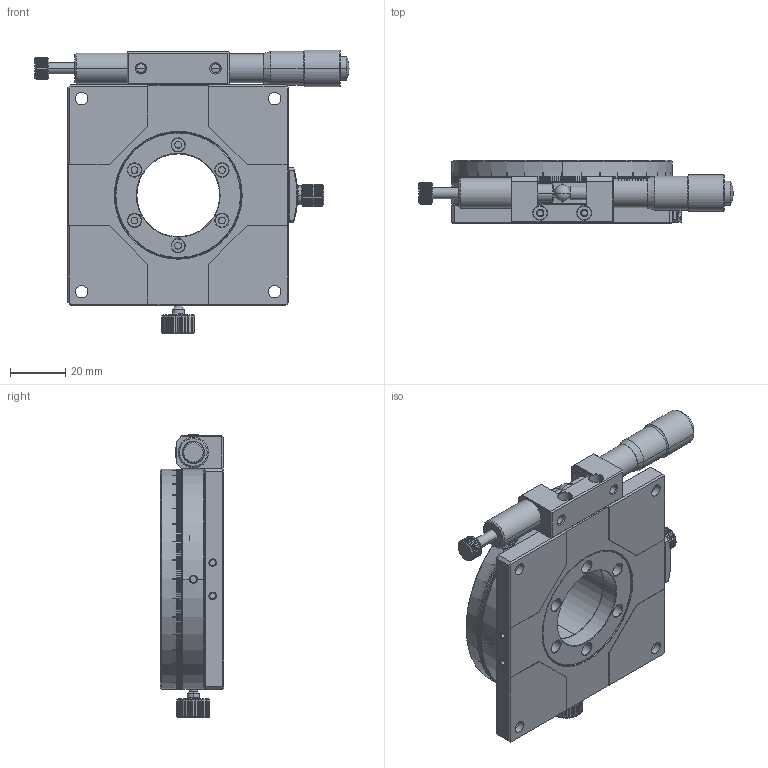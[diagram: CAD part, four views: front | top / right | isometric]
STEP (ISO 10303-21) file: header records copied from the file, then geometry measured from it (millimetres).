
FILE_DESCRIPTION((''),'2;1');
FILE_NAME('ASSY-080-R_ASM','2021-06-10T17:33:22',('windows10'),(''),'CREO PARAMETRIC BY PTC INC, 2018260','CREO PARAMETRIC BY PTC INC, 2018260','');
FILE_SCHEMA(('CONFIG_CONTROL_DESIGN'));
Products named in the file (16): BOTTOM-80; TOP-80; WHEEL-80; HOLDER-TOP-80; BALL-2D381; STOPPER-SUB; LEVER; HOLDER-MICROHEAD-13MM; HOUSING-STICK-13MM; PUSH-STICK-13MM; STOPPER-WHEEL-13MM; MICRO-HEAD-13-F-SJP; BRACKET-HOLDER-60; WASHER-7-1D4; STOPPER-M3-8-8; ASSY-080-R_ASM
Assembly tree (15 placements, depth 2):
  ASSY-080-R_ASM
    BOTTOM-80
    TOP-80
    WHEEL-80
    HOLDER-TOP-80
    BALL-2D381
    STOPPER-SUB
    LEVER
    HOLDER-MICROHEAD-13MM
    HOUSING-STICK-13MM
    PUSH-STICK-13MM
    STOPPER-WHEEL-13MM
    MICRO-HEAD-13-F-SJP
    BRACKET-HOLDER-60
    WASHER-7-1D4
    STOPPER-M3-8-8
Bounding box: 114 x 23 x 102.94 mm (x, y, z)
Volume: 169862.2 mm3; surface area: 58195.6 mm2
Topology: 16 solids, 17 shells, 2745 faces, 7660 edges, 5038 vertices
Faces by surface type: plane 2218, cylinder 339, cone 154, bspline 20, torus 8, sphere 6
Entity records: 90828 total; most frequent: CARTESIAN_POINT 22141, ORIENTED_EDGE 15300, DIRECTION 12922, EDGE_CURVE 7652, VERTEX_POINT 5038, AXIS2_PLACEMENT_3D 4385, VECTOR 4152, LINE 4152
